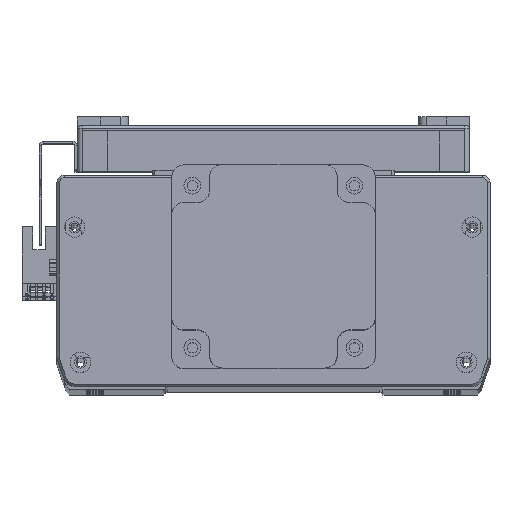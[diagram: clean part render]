
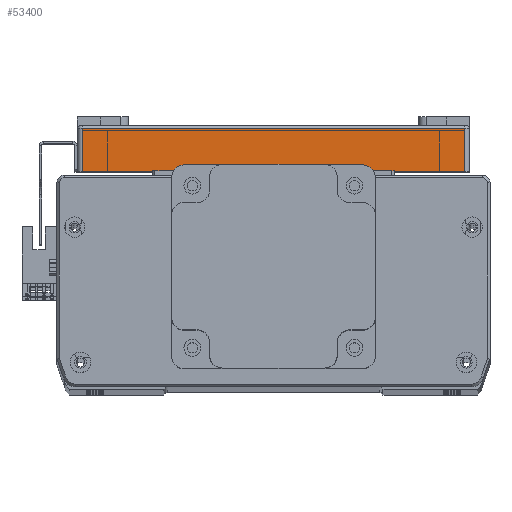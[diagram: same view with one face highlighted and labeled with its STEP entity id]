
A CAD part, top view. The second image highlights one B-rep face of the part: STEP entity #53400.
In plain terms, the highlighted planar face has unit normal (0, 0, 1) as drawn and (-1, 0, 0) by its records, which use the part's own axes.
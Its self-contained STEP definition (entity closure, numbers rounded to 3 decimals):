
#3989 = LINE ( 'NONE', #6794, #4029 ) ;
#3992 = LINE ( 'NONE', #6844, #4036 ) ;
#4000 = VECTOR ( 'NONE', #6783, 1000. ) ;
#4021 = LINE ( 'NONE', #6765, #4000 ) ;
#4029 = VECTOR ( 'NONE', #6773, 1000. ) ;
#4036 = VECTOR ( 'NONE', #6849, 1000. ) ;
#4061 = VECTOR ( 'NONE', #6872, 1000. ) ;
#4070 = LINE ( 'NONE', #6871, #4061 ) ;
#6765 = CARTESIAN_POINT ( 'NONE',  ( -115., 18., 75. ) ) ;
#6773 = DIRECTION ( 'NONE',  ( 0., -1., 0. ) ) ;
#6783 = DIRECTION ( 'NONE',  ( 0., 1., 0. ) ) ;
#6794 = CARTESIAN_POINT ( 'NONE',  ( -115., 18., -75. ) ) ;
#6844 = CARTESIAN_POINT ( 'NONE',  ( -115., 0., -77. ) ) ;
#6849 = DIRECTION ( 'NONE',  ( 0., 0., 1. ) ) ;
#6871 = CARTESIAN_POINT ( 'NONE',  ( -115., 17., -75. ) ) ;
#6872 = DIRECTION ( 'NONE',  ( 0., 0., -1. ) ) ;
#13933 = AXIS2_PLACEMENT_3D ( 'NONE', #17688, #17749, #17700 ) ;
#17688 = CARTESIAN_POINT ( 'NONE',  ( -115., 18., -77. ) ) ;
#17700 = DIRECTION ( 'NONE',  ( 0., 0., -1. ) ) ;
#17704 = PLANE ( 'NONE',  #13933 ) ;
#17749 = DIRECTION ( 'NONE',  ( 1., 0., 0. ) ) ;
#19922 = ORIENTED_EDGE ( 'NONE', *, *, #47490, .T. ) ;
#19926 = ORIENTED_EDGE ( 'NONE', *, *, #47406, .T. ) ;
#19933 = ORIENTED_EDGE ( 'NONE', *, *, #47387, .T. ) ;
#19963 = ORIENTED_EDGE ( 'NONE', *, *, #47449, .T. ) ;
#29105 = VERTEX_POINT ( 'NONE', #37986 ) ;
#29126 = VERTEX_POINT ( 'NONE', #37471 ) ;
#29139 = VERTEX_POINT ( 'NONE', #35973 ) ;
#29209 = VERTEX_POINT ( 'NONE', #36696 ) ;
#32966 = FACE_OUTER_BOUND ( 'NONE', #57252, .T. ) ;
#35973 = CARTESIAN_POINT ( 'NONE',  ( -115., 0., 75. ) ) ;
#36696 = CARTESIAN_POINT ( 'NONE',  ( -115., 17., 75. ) ) ;
#37471 = CARTESIAN_POINT ( 'NONE',  ( -115., 0., -75. ) ) ;
#37986 = CARTESIAN_POINT ( 'NONE',  ( -115., 17., -75. ) ) ;
#47387 = EDGE_CURVE ( 'NONE', #29105, #29126, #3989, .T. ) ;
#47406 = EDGE_CURVE ( 'NONE', #29139, #29209, #4021, .T. ) ;
#47449 = EDGE_CURVE ( 'NONE', #29126, #29139, #3992, .T. ) ;
#47490 = EDGE_CURVE ( 'NONE', #29209, #29105, #4070, .T. ) ;
#53400 = ADVANCED_FACE ( 'NONE', ( #32966 ), #17704, .F. ) ;
#57252 = EDGE_LOOP ( 'NONE', ( #19926, #19922, #19933, #19963 ) ) ;
